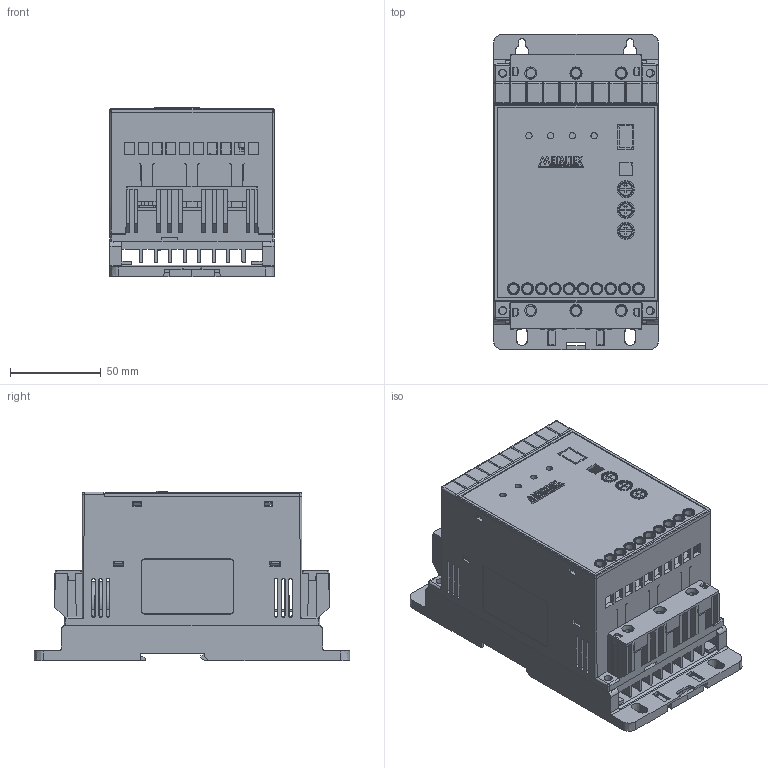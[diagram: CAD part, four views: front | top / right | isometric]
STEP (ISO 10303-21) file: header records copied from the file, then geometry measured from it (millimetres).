
FILE_DESCRIPTION(('FreeCAD Model'),'2;1');
FILE_NAME('Open CASCADE Shape Model','2022-04-18T13:48:55',( 'Engenharia Metaltex'),('Metaltex'), 'Open CASCADE STEP processor 7.5','FreeCAD','Unknown');
FILE_SCHEMA(('AUTOMOTIVE_DESIGN { 1 0 10303 214 1 1 1 1 }'));
Length unit declared in the file: millimetre
Products named in the file (3): PS10-A; Logo; Body
Assembly tree (2 placements, depth 2):
  PS10-A
    Logo
    Body
Bounding box: 90.94 x 174.2 x 93.7 mm (x, y, z)
Volume: 299008.8 mm3; surface area: 261551.4 mm2
Topology: 8 solids, 9 shells, 2807 faces, 8021 edges, 5257 vertices
Faces by surface type: plane 2090, bspline 290, cone 228, cylinder 193, sphere 6
Full cylindrical faces by diameter (mm): 3 x9, 4 x8, 11 x2
Entity records: 204176 total; most frequent: CARTESIAN_POINT 52490, DIRECTION 25075, LINE 17868, VECTOR 17868, ORIENTED_EDGE 16030, PCURVE 16030, DEFINITIONAL_REPRESENTATION 16030, EDGE_CURVE 8015
